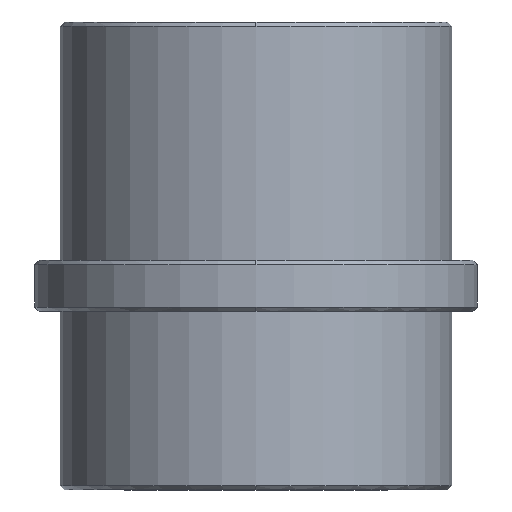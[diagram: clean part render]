
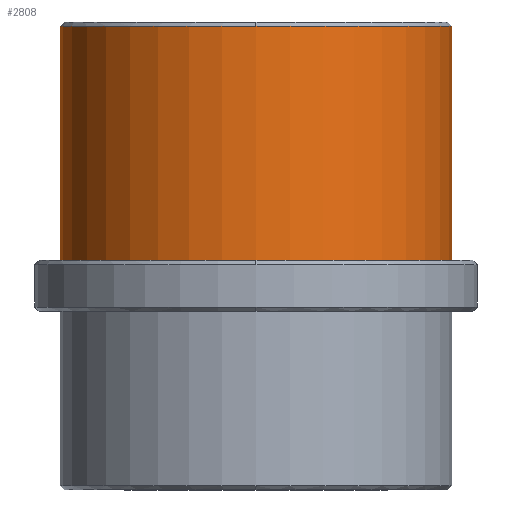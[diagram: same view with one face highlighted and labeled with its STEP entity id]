
A CAD part, front view. The second image highlights one B-rep face of the part: STEP entity #2808.
In plain terms, the highlighted cylindrical face has radius 23 mm (diameter 46 mm), a partial arc.
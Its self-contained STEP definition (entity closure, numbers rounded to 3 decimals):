
#2629=CARTESIAN_POINT('Vertex',(23.,0.,33.5)) ;
#2653=CARTESIAN_POINT('Vertex',(-23.,0.,33.5)) ;
#2677=CARTESIAN_POINT('Vertex',(0.,-23.,33.5)) ;
#2680=CARTESIAN_POINT('Axis2P3D Location',(0.,0.,33.5)) ;
#2697=CARTESIAN_POINT('Axis2P3D Location',(0.,0.,33.5)) ;
#2764=CARTESIAN_POINT('Line Origine',(23.,0.,-23.75)) ;
#2768=CARTESIAN_POINT('Vertex',(23.,0.,6.)) ;
#2775=CARTESIAN_POINT('Vertex',(-23.,0.,6.)) ;
#2778=CARTESIAN_POINT('Line Origine',(-23.,0.,-23.75)) ;
#2791=CARTESIAN_POINT('Axis2P3D Location',(0.,0.,-23.75)) ;
#2796=CARTESIAN_POINT('Axis2P3D Location',(0.,0.,6.)) ;
#2681=DIRECTION('Axis2P3D Direction',(0.,0.,-1.)) ;
#2698=DIRECTION('Axis2P3D Direction',(0.,0.,-1.)) ;
#2765=DIRECTION('Vector Direction',(0.,0.,1.)) ;
#2779=DIRECTION('Vector Direction',(0.,0.,1.)) ;
#2792=DIRECTION('Axis2P3D Direction',(0.,0.,1.)) ;
#2793=DIRECTION('Axis2P3D XDirection',(-1.,0.,0.)) ;
#2797=DIRECTION('Axis2P3D Direction',(0.,0.,1.)) ;
#2682=AXIS2_PLACEMENT_3D('Circle Axis2P3D',#2680,#2681,$) ;
#2699=AXIS2_PLACEMENT_3D('Circle Axis2P3D',#2697,#2698,$) ;
#2794=AXIS2_PLACEMENT_3D('Cylinder Axis2P3D',#2791,#2792,#2793) ;
#2798=AXIS2_PLACEMENT_3D('Circle Axis2P3D',#2796,#2797,$) ;
#2802=ORIENTED_EDGE('',*,*,#2782,.T.) ;
#2803=ORIENTED_EDGE('',*,*,#2800,.F.) ;
#2804=ORIENTED_EDGE('',*,*,#2770,.F.) ;
#2805=ORIENTED_EDGE('',*,*,#2701,.T.) ;
#2806=ORIENTED_EDGE('',*,*,#2684,.T.) ;
#2766=VECTOR('Line Direction',#2765,1.) ;
#2780=VECTOR('Line Direction',#2779,1.) ;
#2808=ADVANCED_FACE('MANIFOLD_SOLID_BREP #2384',(#2807),#2795,.T.) ;
#2683=CIRCLE('generated circle',#2682,23.) ;
#2700=CIRCLE('generated circle',#2699,23.) ;
#2799=CIRCLE('generated circle',#2798,23.) ;
#2795=CYLINDRICAL_SURFACE('generated cylinder',#2794,23.) ;
#2684=EDGE_CURVE('',#2678,#2654,#2683,.T.) ;
#2701=EDGE_CURVE('',#2630,#2678,#2700,.T.) ;
#2770=EDGE_CURVE('',#2630,#2769,#2767,.F.) ;
#2782=EDGE_CURVE('',#2654,#2776,#2781,.F.) ;
#2800=EDGE_CURVE('',#2769,#2776,#2799,.F.) ;
#2801=EDGE_LOOP('',(#2802,#2803,#2804,#2805,#2806)) ;
#2807=FACE_OUTER_BOUND('',#2801,.T.) ;
#2767=LINE('Line',#2764,#2766) ;
#2781=LINE('Line',#2778,#2780) ;
#2630=VERTEX_POINT('',#2629) ;
#2654=VERTEX_POINT('',#2653) ;
#2678=VERTEX_POINT('',#2677) ;
#2769=VERTEX_POINT('',#2768) ;
#2776=VERTEX_POINT('',#2775) ;
